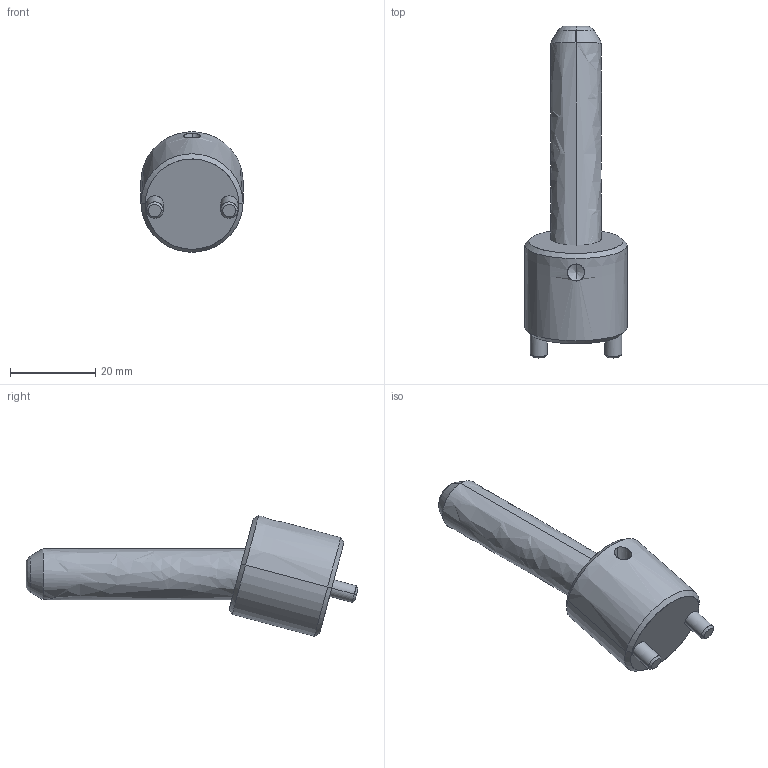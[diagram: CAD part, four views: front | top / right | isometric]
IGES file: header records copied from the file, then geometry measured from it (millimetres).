
Start section: START RECORD GO HERE.
Global section: file name: CI1512050.igs; native system: DASSAULT SYSTEMES CATIA V5 R20 - www.3ds.com; preprocessor: CATIA Version 5 Release 20 ; author: r.borello; organization: CFTORINO; date: 20190620.155420; units: millimetre
Bounding box: 24 x 78.08 x 28.36 mm (x, y, z)
Surface area: 6079.8 mm2 (no closed solid volume)
Topology: 0 solids, 0 shells, 39 faces, 162 edges, 160 vertices
Faces by surface type: revolution 32, plane 7
